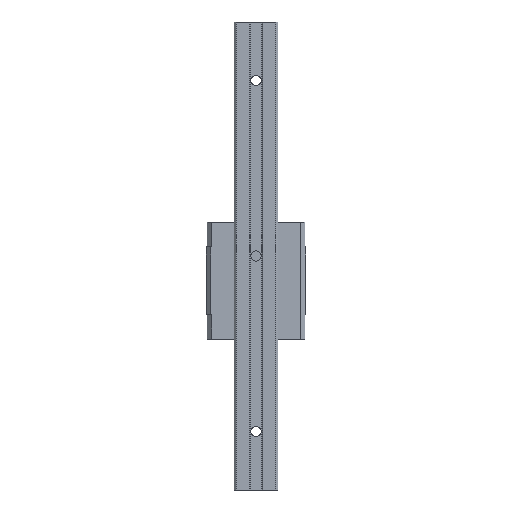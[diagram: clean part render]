
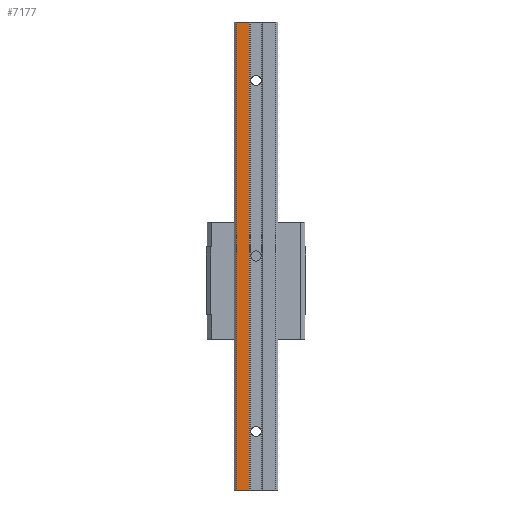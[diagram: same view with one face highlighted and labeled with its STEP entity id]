
A CAD part, front view. The second image highlights one B-rep face of the part: STEP entity #7177.
In plain terms, the highlighted planar face has unit normal (0, -1, 0).
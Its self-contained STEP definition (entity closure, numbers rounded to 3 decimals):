
#5978=DIRECTION('',(-1.,0.,0.));
#5979=VECTOR('',#5978,4.45);
#5980=CARTESIAN_POINT('',(-2.35,-24.,100.));
#5981=LINE('',#5980,#5979);
#6319=DIRECTION('',(0.,0.,-1.));
#6320=VECTOR('',#6319,160.);
#6321=CARTESIAN_POINT('',(-6.8,-24.,100.));
#6322=LINE('',#6321,#6320);
#6323=DIRECTION('',(0.,0.,-1.));
#6324=VECTOR('',#6323,160.);
#6325=CARTESIAN_POINT('',(-2.35,-24.,100.));
#6326=LINE('',#6325,#6324);
#6327=DIRECTION('',(-1.,0.,0.));
#6328=VECTOR('',#6327,4.45);
#6329=CARTESIAN_POINT('',(-2.35,-24.,-60.));
#6330=LINE('',#6329,#6328);
#6573=CARTESIAN_POINT('',(-2.35,-24.,100.));
#6574=VERTEX_POINT('',#6573);
#6575=CARTESIAN_POINT('',(-6.8,-24.,100.));
#6576=VERTEX_POINT('',#6575);
#6659=CARTESIAN_POINT('',(-6.8,-24.,-60.));
#6660=VERTEX_POINT('',#6659);
#6661=CARTESIAN_POINT('',(-2.35,-24.,-60.));
#6662=VERTEX_POINT('',#6661);
#7165=CARTESIAN_POINT('',(-2.35,-24.,50.));
#7166=DIRECTION('',(0.,-1.,0.));
#7167=DIRECTION('',(-1.,0.,0.));
#7168=AXIS2_PLACEMENT_3D('',#7165,#7166,#7167);
#7169=PLANE('',#7168);
#7170=ORIENTED_EDGE('',*,*,#6781,.F.);
#7172=ORIENTED_EDGE('',*,*,#7171,.T.);
#7173=ORIENTED_EDGE('',*,*,#6887,.T.);
#7174=ORIENTED_EDGE('',*,*,#7158,.F.);
#7175=EDGE_LOOP('',(#7170,#7172,#7173,#7174));
#7176=FACE_OUTER_BOUND('',#7175,.F.);
#7177=ADVANCED_FACE('',(#7176),#7169,.T.);
#6781=EDGE_CURVE('',#6574,#6576,#5981,.T.);
#6887=EDGE_CURVE('',#6662,#6660,#6330,.T.);
#7158=EDGE_CURVE('',#6576,#6660,#6322,.T.);
#7171=EDGE_CURVE('',#6574,#6662,#6326,.T.);
